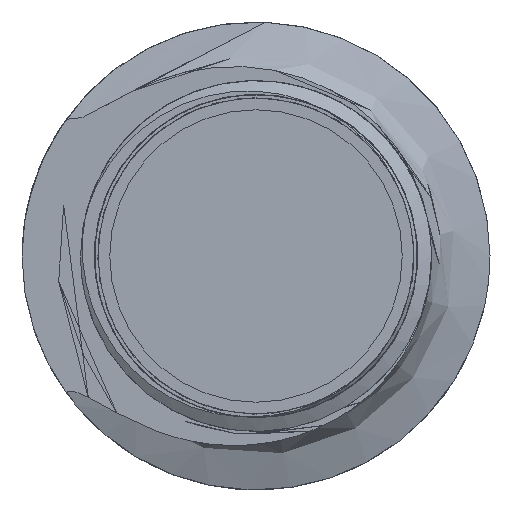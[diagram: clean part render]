
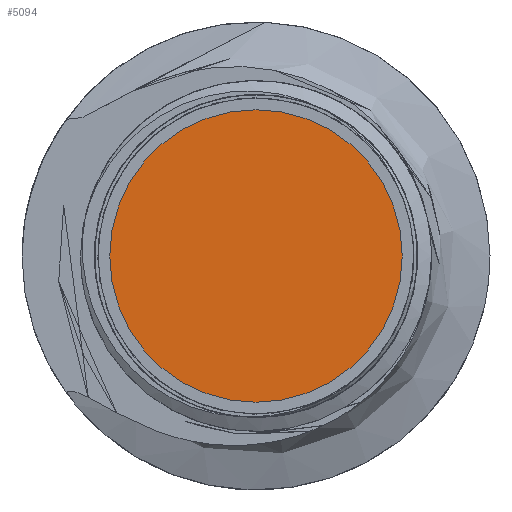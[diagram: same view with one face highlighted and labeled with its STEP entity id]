
A CAD part, left-side view. The second image highlights one B-rep face of the part: STEP entity #5094.
In plain terms, the highlighted planar face has unit normal (-1, 0, 0).
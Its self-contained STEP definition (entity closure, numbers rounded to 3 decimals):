
#910 = DIRECTION ( 'NONE',  ( 0., -1., 0. ) ) ;
#2717 = EDGE_CURVE ( 'NONE', #17503, #5460, #6951, .T. ) ;
#4148 = DIRECTION ( 'NONE',  ( -1., 0., 0. ) ) ;
#5094 = ADVANCED_FACE ( 'NONE', ( #6388 ), #6298, .F. ) ;
#5460 = VERTEX_POINT ( 'NONE', #10062 ) ;
#5973 = DIRECTION ( 'NONE',  ( 1., 0., 0. ) ) ;
#6298 = PLANE ( 'NONE',  #15040 ) ;
#6388 = FACE_OUTER_BOUND ( 'NONE', #8082, .T. ) ;
#6482 = AXIS2_PLACEMENT_3D ( 'NONE', #21666, #4148, #910 ) ;
#6951 = CIRCLE ( 'NONE', #18550, 5. ) ;
#7593 = CIRCLE ( 'NONE', #6482, 5. ) ;
#8082 = EDGE_LOOP ( 'NONE', ( #18852, #18469 ) ) ;
#9548 = DIRECTION ( 'NONE',  ( 0., 1., 0. ) ) ;
#10062 = CARTESIAN_POINT ( 'NONE',  ( 0., -5., 0. ) ) ;
#11501 = EDGE_CURVE ( 'NONE', #5460, #17503, #7593, .T. ) ;
#13214 = DIRECTION ( 'NONE',  ( -1., 0., 0. ) ) ;
#15040 = AXIS2_PLACEMENT_3D ( 'NONE', #16538, #5973, #9548 ) ;
#16538 = CARTESIAN_POINT ( 'NONE',  ( 0., 0., 0. ) ) ;
#16921 = DIRECTION ( 'NONE',  ( 0., -1., 0. ) ) ;
#16990 = CARTESIAN_POINT ( 'NONE',  ( 0., 0., 0. ) ) ;
#17503 = VERTEX_POINT ( 'NONE', #20216 ) ;
#18469 = ORIENTED_EDGE ( 'NONE', *, *, #2717, .T. ) ;
#18550 = AXIS2_PLACEMENT_3D ( 'NONE', #16990, #13214, #16921 ) ;
#18852 = ORIENTED_EDGE ( 'NONE', *, *, #11501, .T. ) ;
#20216 = CARTESIAN_POINT ( 'NONE',  ( 0., 5., 0. ) ) ;
#21666 = CARTESIAN_POINT ( 'NONE',  ( 0., 0., 0. ) ) ;
